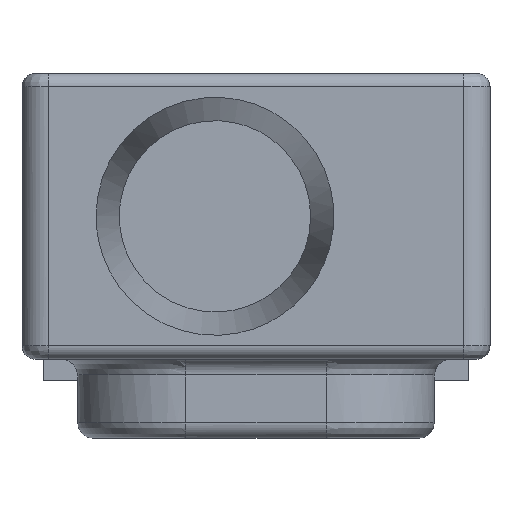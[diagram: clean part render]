
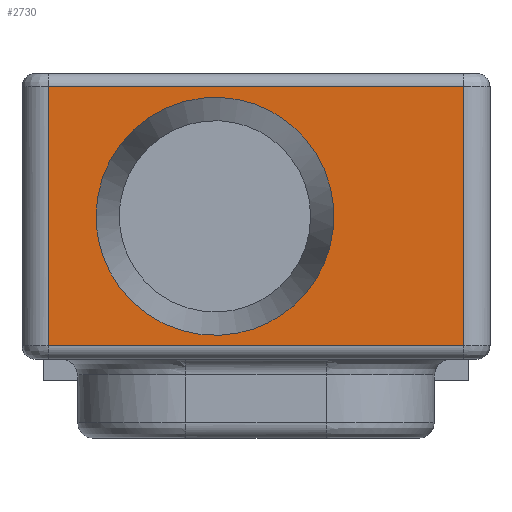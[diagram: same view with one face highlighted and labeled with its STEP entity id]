
A CAD part, front view. The second image highlights one B-rep face of the part: STEP entity #2730.
In plain terms, the highlighted free-form (B-spline) face has degree [1, 1] with [2, 2] control points.
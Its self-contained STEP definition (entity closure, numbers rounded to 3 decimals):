
#2420=CARTESIAN_POINT('V106',(-6.05,-40.,
   0.));
#2421=VERTEX_POINT('V106',#2420);
#2429=CARTESIAN_POINT('E178',(-6.05,-40.,
   0.));
#2430=CARTESIAN_POINT('E178',(-6.05,-40.,
   7.794));
#2431=CARTESIAN_POINT('E178',(0.7,-40.,
   3.897));
#2432=CARTESIAN_POINT('E178',(7.45,-40.0,0.)
   );
#2433=CARTESIAN_POINT('E178',(0.7,-40.,
   -3.897));
#2434=CARTESIAN_POINT('E178',(-6.05,-40.,
   -7.794));
#2435=CARTESIAN_POINT('E178',(-6.05,-40.,
   0.));
#2443=(BOUNDED_CURVE()B_SPLINE_CURVE(2,(#2429,#2430,#2431,#2432,
   #2433,#2434,#2435),.CIRCULAR_ARC.,.T.,.U.)
   B_SPLINE_CURVE_WITH_KNOTS((3,2,2,3),(0.0,2.77,
   5.539,8.309),.UNSPECIFIED.)CURVE()
   GEOMETRIC_REPRESENTATION_ITEM()RATIONAL_B_SPLINE_CURVE((1.0,
   0.5,1.0,0.5,1.0,0.5,1.0)
   )REPRESENTATION_ITEM('E178'));
#2444=EDGE_CURVE('E178',#2421,#2421,#2443,.T.);
#2661=CARTESIAN_POINT('V33',(-7.85,-40.,
   -4.9));
#2662=VERTEX_POINT('V33',#2661);
#2676=CARTESIAN_POINT('V71',(-7.85,-40.,
   4.9));
#2677=VERTEX_POINT('V71',#2676);
#2678=CARTESIAN_POINT('E161',(-7.85,-40.,
   -4.9));
#2679=CARTESIAN_POINT('E161',(-7.85,-40.,
   4.9));
#2680=B_SPLINE_CURVE_WITH_KNOTS('E161',1,(#2678,#2679),
   .POLYLINE_FORM.,.F.,.U.,(2,2),(0.064,
   1.312),.UNSPECIFIED.);
#2681=EDGE_CURVE('E161',#2662,#2677,#2680,.T.);
#2700=CARTESIAN_POINT('F77',(7.95,-40.,
   5.5));
#2701=CARTESIAN_POINT('F77',(-7.95,-40.,
   5.5));
#2702=CARTESIAN_POINT('F77',(7.95,-40.,
   -5.5));
#2703=CARTESIAN_POINT('F77',(-7.95,-40.,
   -5.5));
#2704=B_SPLINE_SURFACE_WITH_KNOTS('F77',1,1,((#2700,#2702),(#2701,
   #2703)),.PLANE_SURF.,.F.,.F.,.U.,(2,2),(2,2),(0.0,
   1.445),(0.0,1.0),.UNSPECIFIED.);
#2705=CARTESIAN_POINT('V35',(7.85,-40.,
   -4.9));
#2706=VERTEX_POINT('V35',#2705);
#2707=CARTESIAN_POINT('E51',(-7.85,-40.,
   -4.9));
#2708=CARTESIAN_POINT('E51',(7.85,-40.,
   -4.9));
#2709=B_SPLINE_CURVE_WITH_KNOTS('E51',1,(#2707,#2708),
   .POLYLINE_FORM.,.F.,.U.,(2,2),(2.0,21.99),
   .UNSPECIFIED.);
#2710=EDGE_CURVE('E51',#2662,#2706,#2709,.T.);
#2711=ORIENTED_EDGE('E51',*,*,#2710,.T.);
#2712=CARTESIAN_POINT('V69',(7.85,-40.,
   4.9));
#2713=VERTEX_POINT('V69',#2712);
#2714=CARTESIAN_POINT('E153',(7.85,-40.,
   -4.9));
#2715=CARTESIAN_POINT('E153',(7.85,-40.,
   4.9));
#2716=B_SPLINE_CURVE_WITH_KNOTS('E153',1,(#2714,#2715),
   .POLYLINE_FORM.,.F.,.U.,(2,2),(0.064,
   1.312),.UNSPECIFIED.);
#2717=EDGE_CURVE('E153',#2706,#2713,#2716,.T.);
#2718=ORIENTED_EDGE('E153',*,*,#2717,.T.);
#2719=CARTESIAN_POINT('E103',(7.85,-40.,
   4.9));
#2720=CARTESIAN_POINT('E103',(-7.85,-40.,
   4.9));
#2721=B_SPLINE_CURVE_WITH_KNOTS('E103',1,(#2719,#2720),
   .POLYLINE_FORM.,.F.,.U.,(2,2),(2.0,21.99),
   .UNSPECIFIED.);
#2722=EDGE_CURVE('E103',#2713,#2677,#2721,.T.);
#2723=ORIENTED_EDGE('E103',*,*,#2722,.T.);
#2724=ORIENTED_EDGE('E161',*,*,#2681,.F.);
#2725=EDGE_LOOP('F77',(#2711,#2718,#2723,#2724));
#2726=FACE_OUTER_BOUND('F77',#2725,.T.);
#2727=ORIENTED_EDGE('F76',*,*,#2444,.T.);
#2728=EDGE_LOOP('F77',(#2727));
#2729=FACE_BOUND('F77',#2728,.T.);
#2730=ADVANCED_FACE('F77',(#2726,#2729),#2704,.T.);
